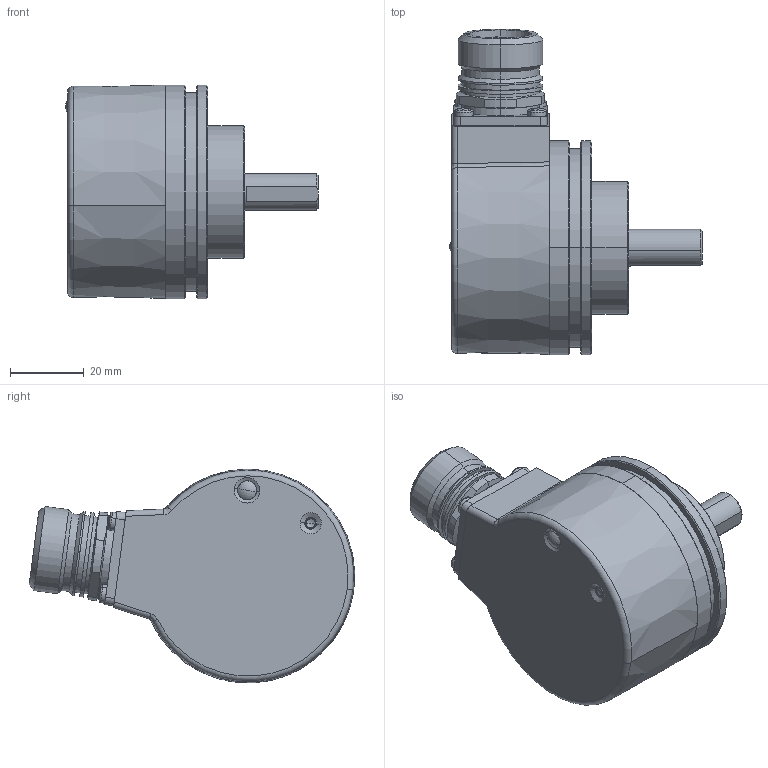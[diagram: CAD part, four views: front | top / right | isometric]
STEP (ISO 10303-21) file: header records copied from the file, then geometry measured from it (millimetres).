
FILE_DESCRIPTION (( 'STEP AP214' ), '1' );
FILE_NAME ('5853.1224.XXXX.STEP', '2009-01-09T09:41:05', ( 'admin' ), ( 'Fritz Kübler GmbH' ), 'SwSTEP 2.0', 'SolidWorks 2008', '' );
FILE_SCHEMA (( 'AUTOMOTIVE_DESIGN' ));
Length unit declared in the file: millimetre
Products named in the file (1): 5853.1224.XXXX
Bounding box: 68.52 x 88.3 x 58 mm (x, y, z)
Volume: 70429 mm3; surface area: 47284.1 mm2
Topology: 24 solids, 27 shells, 1144 faces, 2656 edges, 1598 vertices
Faces by surface type: cylinder 454, plane 257, cone 223, torus 126, sphere 56, bspline 28
Entity records: 46507 total; most frequent: CARTESIAN_POINT 7521, DIRECTION 6014, ORIENTED_EDGE 5084, AXIS2_PLACEMENT_3D 2566, EDGE_CURVE 2542, VERTEX_POINT 1568, CIRCLE 1449, EDGE_LOOP 1326
